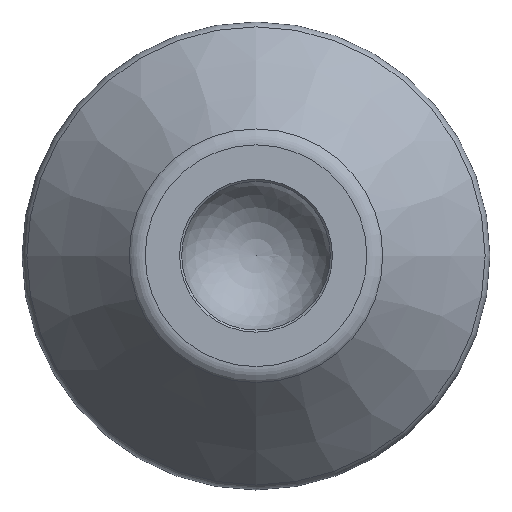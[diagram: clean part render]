
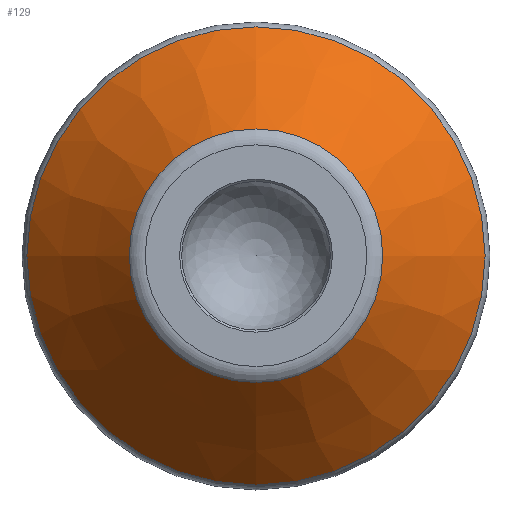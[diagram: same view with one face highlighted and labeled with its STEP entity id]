
A CAD part, top view. The second image highlights one B-rep face of the part: STEP entity #129.
In plain terms, the highlighted conical face has half-angle 40 degrees and reference radius 17.112 mm.
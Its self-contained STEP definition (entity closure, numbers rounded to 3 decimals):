
#129=ADVANCED_FACE('',(#731,#733),#735,.T.);
#731=FACE_OUTER_BOUND('',#732,.T.);
#732=EDGE_LOOP('',(#1316));
#733=FACE_OUTER_BOUND('',#734,.T.);
#734=EDGE_LOOP('',(#1317));
#735=CONICAL_SURFACE('',#736,17.112,0.698);
#736=AXIS2_PLACEMENT_3D('',#737,#738,#739);
#737=CARTESIAN_POINT('',(0.,0.,11.422));
#738=DIRECTION('',(0.,0.,-1.));
#739=DIRECTION('',(1.,0.,0.));
#1316=ORIENTED_EDGE('',*,*,#1631,.F.);
#1317=ORIENTED_EDGE('',*,*,#1629,.T.);
#1629=EDGE_CURVE('',#2056,#2056,#2057,.T.);
#1631=EDGE_CURVE('',#2060,#2060,#2061,.T.);
#2056=VERTEX_POINT('',#3991);
#2057=CIRCLE('',#3992,22.032);
#2060=VERTEX_POINT('',#4001);
#2061=CIRCLE('',#4002,12.191);
#3991=CARTESIAN_POINT('',(-22.032,0.,5.558));
#3992=AXIS2_PLACEMENT_3D('',#3993,#3994,#3995);
#3993=CARTESIAN_POINT('',(0.,0.,5.558));
#3994=DIRECTION('',(0.,0.,1.));
#3995=DIRECTION('',(-1.,0.,0.));
#4001=CARTESIAN_POINT('',(-12.191,0.,17.286));
#4002=AXIS2_PLACEMENT_3D('',#4003,#4004,#4005);
#4003=CARTESIAN_POINT('',(0.,0.,17.286));
#4004=DIRECTION('',(0.,0.,1.));
#4005=DIRECTION('',(-1.,0.,0.));
